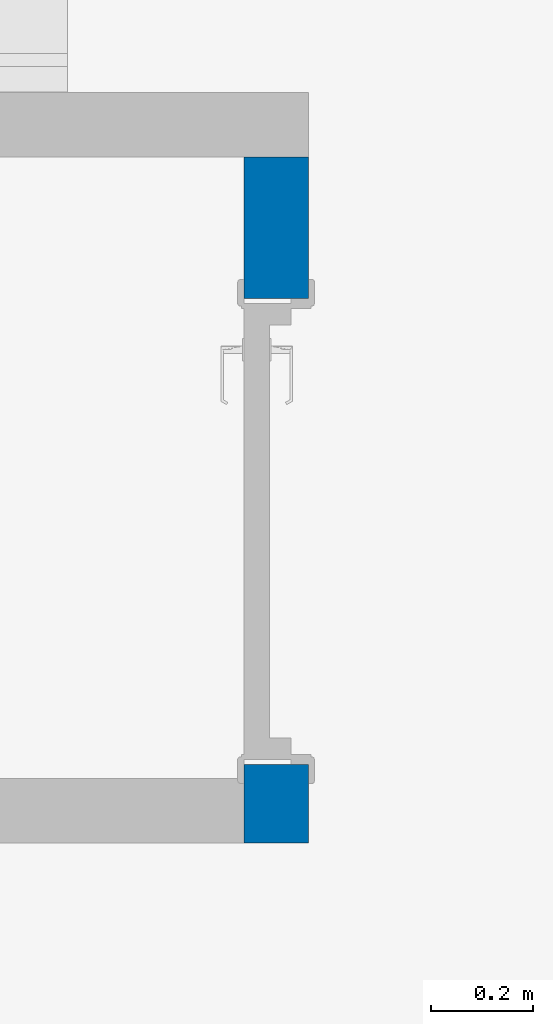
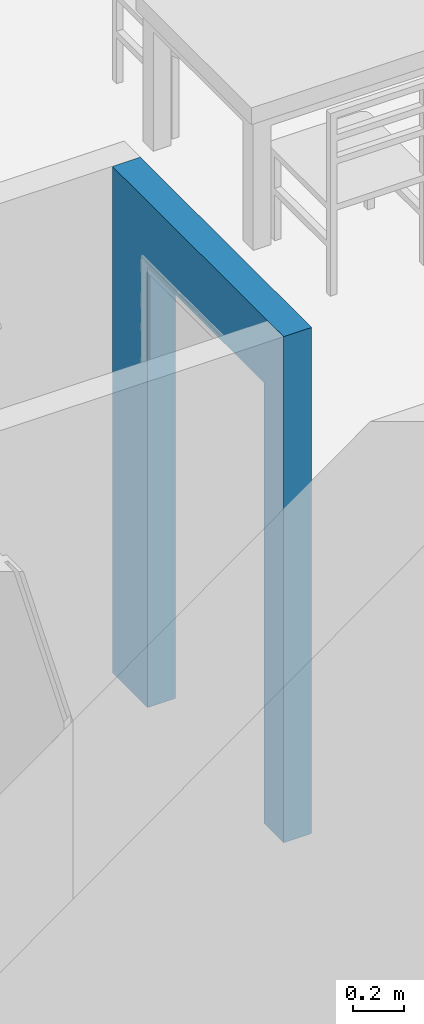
# One storey, part 15 of 65: 1 wall, 1 opening.
"""IFC2X3 building model written with IfcOpenShell, lengths in millimetres."""

from ifc_helpers import new_model, entity, si_unit, converted_unit, direction, frame, frame_2d, origin, place, context, subcontext, project, spatial, rectangle, extrude, material, layer, layer_set, layer_usage, type_object, element, save


model = new_model("IFC2X3")

# Units and contexts
model_context = context("Model", 3, precision=0.01, world=origin(), true_north=direction((0.0, 1.0)))
body_context = subcontext(model_context, "Body", "Model", "MODEL_VIEW")
ifc_project = project(units=[si_unit("LENGTHUNIT", "METRE", prefix="MILLI"), si_unit("AREAUNIT", "SQUARE_METRE"), si_unit("VOLUMEUNIT", "CUBIC_METRE"), converted_unit("PLANEANGLEUNIT", "DEGREE", entity("IfcPlaneAngleMeasure", 0.017453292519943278), si_unit("PLANEANGLEUNIT", "RADIAN"), dimensions=[0, 0, 0, 0, 0, 0, 0])], contexts=[model_context])

# Site, building, storey
site_placement = place(None, origin())
site = spatial("IfcSite", under=ifc_project, at=site_placement, Name="Default", CompositionType="ELEMENT")
building_placement = place(site_placement, origin())
building = spatial("IfcBuilding", under=site, at=building_placement, CompositionType="ELEMENT")
storey_placement = place(building_placement, origin())
storey = spatial("IfcBuildingStorey", under=building, at=storey_placement, Name="Et. 1", CompositionType="ELEMENT", Elevation=0.0)

# Wall, opening
ifc_material_1 = material(Name="Vegg - Gips - Innvendig - Hvit")
ifc_layer_1 = layer(ifc_material_1, 13.000000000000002)
ifc_material_2 = material(Name="Vegg - Stender - Stål - Isolert")
ifc_layer_2 = layer(ifc_material_2, 100.0)
ifc_layer_3 = layer(ifc_material_1, 13.000000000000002)
ifc_layer_set = layer_set([ifc_layer_1, ifc_layer_2, ifc_layer_3], Name="Basic Wall:24-GSIG-13_100_13")
ifc_layer_usage = layer_usage(ifc_layer_set, "AXIS2", "NEGATIVE", 63.00000000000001)
wall_type = type_object("IfcWallType", Name="Basic Wall:24-GSIG-13_100_13", PredefinedType="STANDARD", material=ifc_layer_set)
wall_placement = place(storey_placement, frame((18542.009586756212, 13093.058719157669, 0.0), z_axis=(0.0, 0.0, 1.0), x_axis=(0.0, -1.0, 0.0)))
wall = element("IfcWallStandardCase", 1, at=wall_placement, inside=storey, type_object=wall_type, material=ifc_layer_usage, Name="Basic Wall:24-GSIG-13_100_13", context=body_context, shape_type="SweptSolid", body=[
    extrude(rectangle(XDim=1338.8777614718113, YDim=126.00000000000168, at=frame_2d((669.4388807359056, 2.6645352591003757e-13), x_axis=(-1.0, 0.0))), origin(), (0.0, 0.0, 1.0), 2413.0),
])
opening_placement = place(wall_placement, frame((1185.8777614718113, 63.0, 0.0)))
element("IfcOpeningElement", 2, at=opening_placement, cuts=wall, Name="ID Hel:9x21M:1", ObjectType="Opening", context=body_context, shape_type="SweptSolid", body=[
    extrude(rectangle(XDim=910.0000000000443, YDim=2100.0000000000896, at=frame_2d((1050.0000000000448, 455.00000000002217), x_axis=(0.0, -1.0))), frame((0.0, 0.0, 0.0), z_axis=(0.0, -1.0, 0.0), x_axis=(0.0, 0.0, 1.0)), (0.0, 0.0, 1.0), 126.00000000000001),
])

save(model, "model.ifc")
